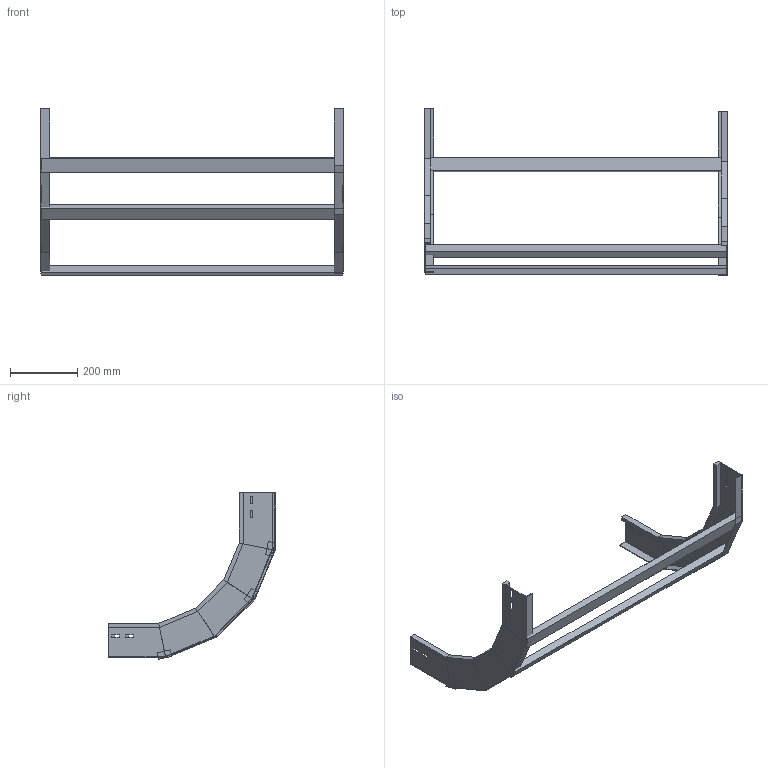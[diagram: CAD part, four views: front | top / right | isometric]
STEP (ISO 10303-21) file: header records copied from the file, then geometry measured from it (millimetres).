
FILE_DESCRIPTION (( 'STEP AP214' ), '1' );
FILE_NAME ('A2X30B3D900XX.step', '2025-04-02T09:06:28', ( '' ), ( '' ), 'SwSTEP 2.0', 'SolidWorks 2023', '' );
FILE_SCHEMA (( 'AUTOMOTIVE_DESIGN' ));
Length unit declared in the file: millimetre
Products named in the file (3): TRAVERSINO_900; LONGH.SALITA_90°_H100_R300; A2X30B3D900XX
Assembly tree (5 placements, depth 2):
  A2X30B3D900XX
    LONGH.SALITA_90°_H100_R300  x2
    TRAVERSINO_900  x3
Bounding box: 900 x 497.32 x 495.32 mm (x, y, z)
Volume: 2805586.2 mm3; surface area: 754153.5 mm2
Topology: 5 solids, 5 shells, 134 faces, 308 edges, 184 vertices
Faces by surface type: plane 134
Entity records: 1864 total; most frequent: CARTESIAN_POINT 308, ORIENTED_EDGE 296, DIRECTION 292, EDGE_CURVE 148, VECTOR 148, LINE 148, VERTEX_POINT 88, EDGE_LOOP 72
